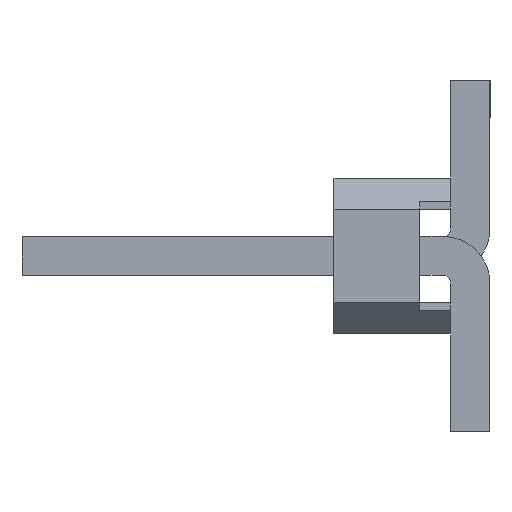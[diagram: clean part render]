
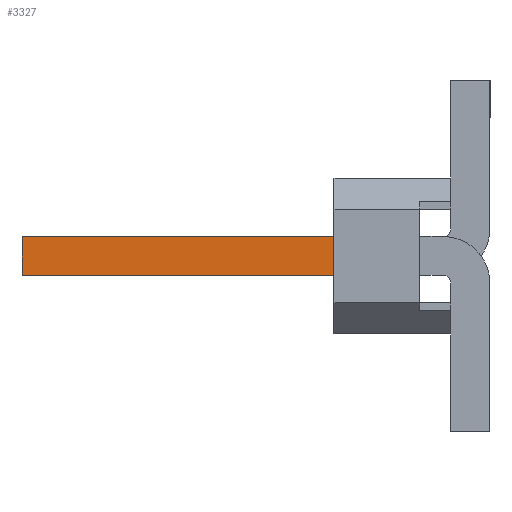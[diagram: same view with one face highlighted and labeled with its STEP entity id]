
A CAD part, left-side view. The second image highlights one B-rep face of the part: STEP entity #3327.
In plain terms, the highlighted planar face has unit normal (-1, 0, 0).
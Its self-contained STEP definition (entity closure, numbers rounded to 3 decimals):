
#65 = VERTEX_POINT ( 'NONE', #410 ) ;
#338 = DIRECTION ( 'NONE',  ( 0., 1., 0. ) ) ;
#410 = CARTESIAN_POINT ( 'NONE',  ( -1.166, 0.789, 2.25 ) ) ;
#1310 = ORIENTED_EDGE ( 'NONE', *, *, #5909, .T. ) ;
#1603 = ORIENTED_EDGE ( 'NONE', *, *, #5192, .T. ) ;
#1719 = DIRECTION ( 'NONE',  ( 0., -1., 0. ) ) ;
#1750 = EDGE_CURVE ( 'NONE', #8469, #3649, #4360, .T. ) ;
#1818 = CARTESIAN_POINT ( 'NONE',  ( -1.166, 4.789, 1.75 ) ) ;
#1831 = DIRECTION ( 'NONE',  ( 0., 1., 0. ) ) ;
#1924 = LINE ( 'NONE', #8740, #2623 ) ;
#2262 = EDGE_CURVE ( 'NONE', #3649, #8120, #7080, .T. ) ;
#2309 = DIRECTION ( 'NONE',  ( 0., 0., 1. ) ) ;
#2531 = VECTOR ( 'NONE', #2309, 1000. ) ;
#2623 = VECTOR ( 'NONE', #1831, 1000. ) ;
#2949 = CARTESIAN_POINT ( 'NONE',  ( -1.166, -0.611, 1.65 ) ) ;
#2984 = VECTOR ( 'NONE', #5696, 1000. ) ;
#3072 = ORIENTED_EDGE ( 'NONE', *, *, #2262, .T. ) ;
#3327 = ADVANCED_FACE ( 'NONE', ( #4316 ), #7008, .T. ) ;
#3488 = CARTESIAN_POINT ( 'NONE',  ( -1.166, 0.789, 1.75 ) ) ;
#3649 = VERTEX_POINT ( 'NONE', #1818 ) ;
#3679 = CARTESIAN_POINT ( 'NONE',  ( -1.166, 4.789, 1.75 ) ) ;
#4276 = CARTESIAN_POINT ( 'NONE',  ( -1.166, 0.789, 1. ) ) ;
#4316 = FACE_OUTER_BOUND ( 'NONE', #5028, .T. ) ;
#4322 = CARTESIAN_POINT ( 'NONE',  ( -1.166, 4.789, 2.25 ) ) ;
#4360 = LINE ( 'NONE', #4322, #2984 ) ;
#5028 = EDGE_LOOP ( 'NONE', ( #1603, #1310, #5874, #3072 ) ) ;
#5192 = EDGE_CURVE ( 'NONE', #8120, #65, #8422, .T. ) ;
#5440 = AXIS2_PLACEMENT_3D ( 'NONE', #2949, #6333, #338 ) ;
#5696 = DIRECTION ( 'NONE',  ( 0., 0., -1. ) ) ;
#5874 = ORIENTED_EDGE ( 'NONE', *, *, #1750, .T. ) ;
#5909 = EDGE_CURVE ( 'NONE', #65, #8469, #1924, .T. ) ;
#6333 = DIRECTION ( 'NONE',  ( -1., 0., 0. ) ) ;
#7008 = PLANE ( 'NONE',  #5440 ) ;
#7080 = LINE ( 'NONE', #3679, #7539 ) ;
#7416 = CARTESIAN_POINT ( 'NONE',  ( -1.166, 4.789, 2.25 ) ) ;
#7539 = VECTOR ( 'NONE', #1719, 1000. ) ;
#8120 = VERTEX_POINT ( 'NONE', #3488 ) ;
#8422 = LINE ( 'NONE', #4276, #2531 ) ;
#8469 = VERTEX_POINT ( 'NONE', #7416 ) ;
#8740 = CARTESIAN_POINT ( 'NONE',  ( -1.166, -0.611, 2.25 ) ) ;
